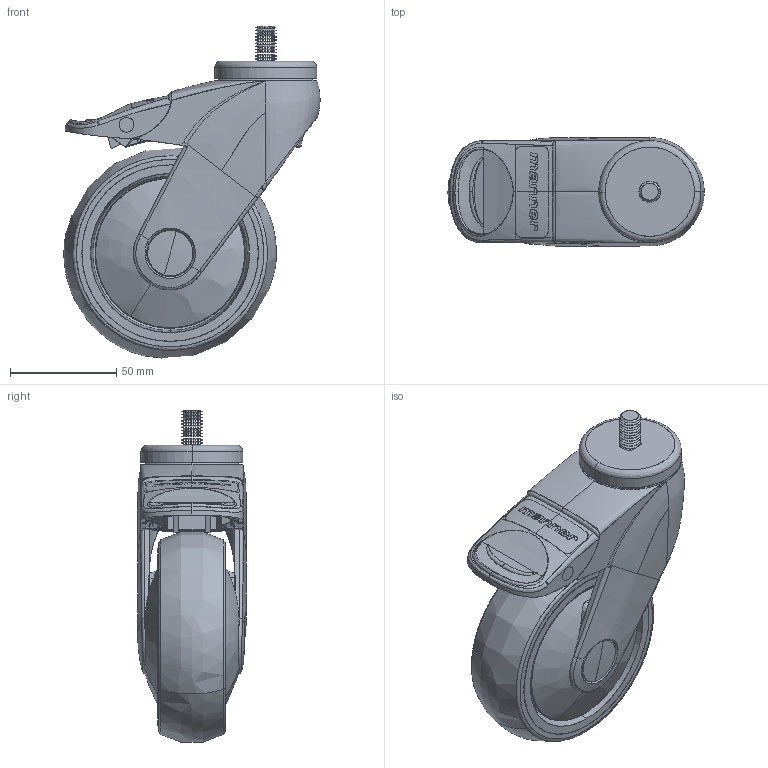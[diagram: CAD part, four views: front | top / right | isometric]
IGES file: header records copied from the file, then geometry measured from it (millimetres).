
Start section: SolidWorks IGES file using analytic representation for surfaces
Global section: file name: S:\Tyokansio\VL\301771IGES.IGS; native system: SolidWorks 2011; preprocessor: SolidWorks 2011; author: VilleLa; date: 110620.095213; units: millimetre
Bounding box: 120.58 x 51.27 x 156.19 mm (x, y, z)
Surface area: 86518.6 mm2 (no closed solid volume)
Topology: 0 solids, 0 shells, 721 faces, 11767 edges, 11751 vertices
Faces by surface type: bspline 534, revolution 187
